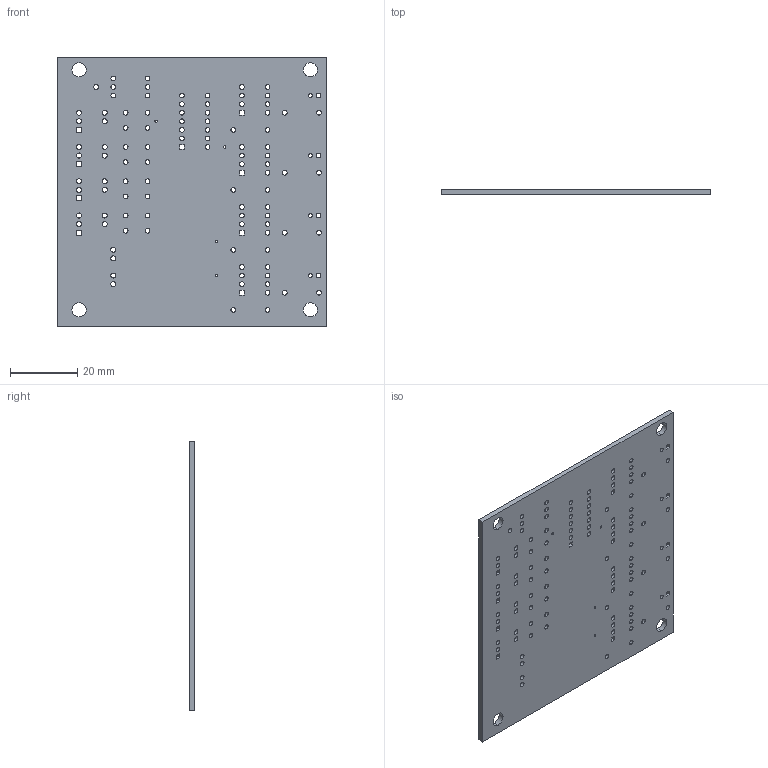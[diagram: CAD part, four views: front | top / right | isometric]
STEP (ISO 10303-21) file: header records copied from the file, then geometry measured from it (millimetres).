
FILE_DESCRIPTION (( 'STEP AP214' ), '1' );
FILE_NAME ('PCB_04-02-2018.STEP', '2018-05-10T20:45:27', ( '' ), ( '' ), 'SwSTEP 2.0', 'SolidWorks 2015', '' );
FILE_SCHEMA (( 'AUTOMOTIVE_DESIGN' ));
Length unit declared in the file: millimetre
Products named in the file (1): PCB_04-02-2018
Bounding box: 79.9 x 1.6 x 79.9 mm (x, y, z)
Volume: 9822 mm3; surface area: 13739.4 mm2
Topology: 1 solids, 1 shells, 282 faces, 840 edges, 560 vertices
Faces by surface type: cylinder 224, plane 58
Entity records: 10246 total; most frequent: DIRECTION 1854, CARTESIAN_POINT 1683, ORIENTED_EDGE 1680, EDGE_CURVE 840, AXIS2_PLACEMENT_3D 731, VERTEX_POINT 560, EDGE_LOOP 532, CIRCLE 448
